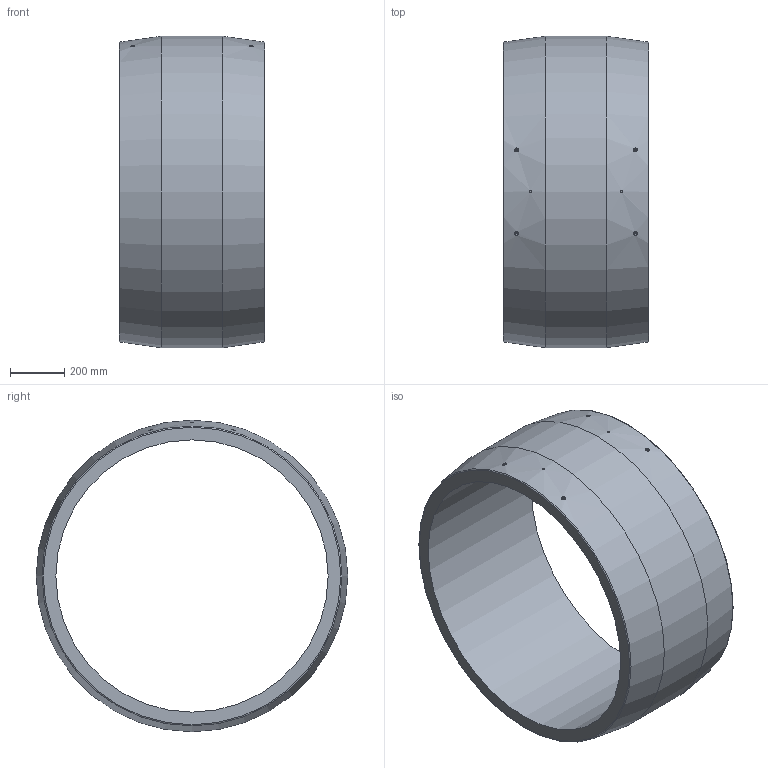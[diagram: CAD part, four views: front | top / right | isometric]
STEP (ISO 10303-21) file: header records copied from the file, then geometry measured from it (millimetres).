
FILE_DESCRIPTION(/* description */ ('Unknown'),/* implementation_level */ '2;1');
FILE_NAME(/* name */ 'MP1000B',/* time_stamp */ '2021-06-23T15:28:22+02:00',/* author */ ('Unknown'),/* organization */ ('Unknown'),/* preprocessor_version */ 'ST-DEVELOPER v16.7',/* originating_system */ 'Solid Edge',/* authorisation */ 'Unknown');
FILE_SCHEMA (('AUTOMOTIVE_DESIGN {1 0 10303 214 3 1 1}'));
Length unit declared in the file: millimetre
Products named in the file (1): MP1000B
Bounding box: 536 x 1144 x 1144 mm (x, y, z)
Volume: 117847010.5 mm3; surface area: 3924163.5 mm2
Topology: 1 solids, 1 shells, 32 faces, 64 edges, 42 vertices
Faces by surface type: cylinder 12, plane 12, bspline 4, cone 2, torus 2
Full cylindrical faces by diameter (mm): 4 x4, 8 x2, 13 x4, 1000 x1, 1144 x1
Entity records: 1159 total; most frequent: CARTESIAN_POINT 620, DIRECTION 102, ORIENTED_EDGE 64, EDGE_LOOP 64, FACE_BOUND 64, AXIS2_PLACEMENT_3D 51, EDGE_CURVE 32, VERTEX_POINT 32
